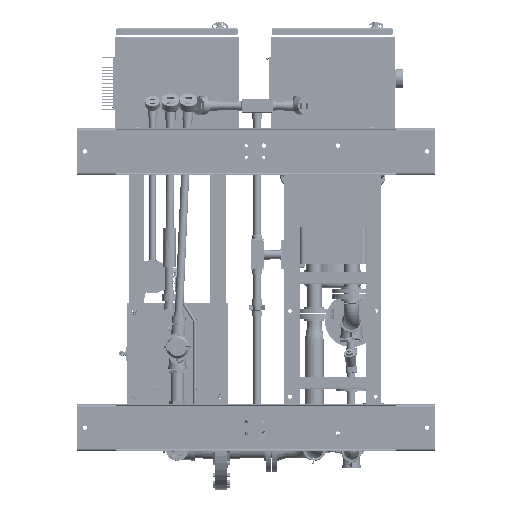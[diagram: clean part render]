
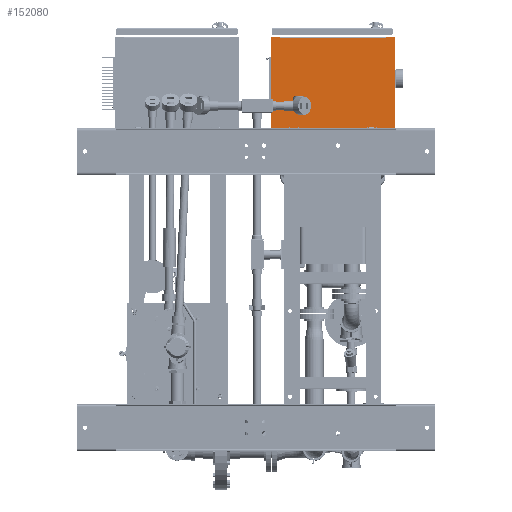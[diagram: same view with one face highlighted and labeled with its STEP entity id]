
A CAD part, front view. The second image highlights one B-rep face of the part: STEP entity #152080.
In plain terms, the highlighted planar face has unit normal (0, -1, 0).
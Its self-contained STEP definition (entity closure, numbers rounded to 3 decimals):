
#388 = DIRECTION ( 'NONE',  ( 0., 0., -1. ) ) ;
#1256 = ORIENTED_EDGE ( 'NONE', *, *, #88720, .F. ) ;
#1353 = DIRECTION ( 'NONE',  ( 0., -1., 0. ) ) ;
#3464 = VERTEX_POINT ( 'NONE', #132478 ) ;
#3819 = EDGE_CURVE ( 'NONE', #87629, #72014, #83582, .T. ) ;
#4423 = DIRECTION ( 'NONE',  ( 0., 0., -1. ) ) ;
#6152 = CARTESIAN_POINT ( 'NONE',  ( 13.202, 13.737, 40.592 ) ) ;
#8606 = VERTEX_POINT ( 'NONE', #72236 ) ;
#9051 = VECTOR ( 'NONE', #23881, 39.37 ) ;
#9408 = CARTESIAN_POINT ( 'NONE',  ( 12.143, 13.737, 28.813 ) ) ;
#11732 = DIRECTION ( 'NONE',  ( 0., 1., 0. ) ) ;
#12383 = ORIENTED_EDGE ( 'NONE', *, *, #172997, .F. ) ;
#12421 = ORIENTED_EDGE ( 'NONE', *, *, #107170, .F. ) ;
#14426 = LINE ( 'NONE', #120813, #67740 ) ;
#15016 = CARTESIAN_POINT ( 'NONE',  ( 20., 13.737, 34.75 ) ) ;
#18523 = DIRECTION ( 'NONE',  ( 0., 1., 0. ) ) ;
#18611 = ORIENTED_EDGE ( 'NONE', *, *, #54184, .F. ) ;
#20458 = DIRECTION ( 'NONE',  ( 0., 0., -1. ) ) ;
#22937 = DIRECTION ( 'NONE',  ( 1., 0., 0. ) ) ;
#23141 = VECTOR ( 'NONE', #22937, 39.37 ) ;
#23881 = DIRECTION ( 'NONE',  ( -1., 0., 0. ) ) ;
#26521 = EDGE_CURVE ( 'NONE', #156604, #8606, #51306, .T. ) ;
#26752 = LINE ( 'NONE', #157632, #9051 ) ;
#28265 = DIRECTION ( 'NONE',  ( 0., 0., -1. ) ) ;
#28552 = VECTOR ( 'NONE', #152717, 39.37 ) ;
#29883 = VECTOR ( 'NONE', #95337, 39.37 ) ;
#31838 = ORIENTED_EDGE ( 'NONE', *, *, #38719, .T. ) ;
#33492 = CIRCLE ( 'NONE', #142662, 0.08 ) ;
#35177 = VERTEX_POINT ( 'NONE', #149185 ) ;
#35555 = ORIENTED_EDGE ( 'NONE', *, *, #3819, .T. ) ;
#38719 = EDGE_CURVE ( 'NONE', #72014, #8606, #173503, .T. ) ;
#39784 = DIRECTION ( 'NONE',  ( -0.174, 0., 0.985 ) ) ;
#48622 = EDGE_CURVE ( 'NONE', #110135, #3464, #87328, .T. ) ;
#49899 = AXIS2_PLACEMENT_3D ( 'NONE', #92795, #18523, #136691 ) ;
#51306 = LINE ( 'NONE', #156691, #23141 ) ;
#54176 = VERTEX_POINT ( 'NONE', #100585 ) ;
#54184 = EDGE_CURVE ( 'NONE', #82239, #118424, #33492, .T. ) ;
#55029 = DIRECTION ( 'NONE',  ( -0.174, 0., -0.985 ) ) ;
#59749 = ORIENTED_EDGE ( 'NONE', *, *, #26521, .F. ) ;
#60617 = AXIS2_PLACEMENT_3D ( 'NONE', #15016, #1353, #388 ) ;
#61927 = VECTOR ( 'NONE', #55029, 39.37 ) ;
#62681 = LINE ( 'NONE', #153402, #104895 ) ;
#66369 = CARTESIAN_POINT ( 'NONE',  ( 27.857, 13.737, 40.631 ) ) ;
#67121 = ORIENTED_EDGE ( 'NONE', *, *, #95362, .T. ) ;
#67740 = VECTOR ( 'NONE', #121760, 39.37 ) ;
#70684 = CARTESIAN_POINT ( 'NONE',  ( 12.063, 13.737, 40.631 ) ) ;
#72014 = VERTEX_POINT ( 'NONE', #140584 ) ;
#72236 = CARTESIAN_POINT ( 'NONE',  ( 13.165, 13.737, 40.711 ) ) ;
#75199 = CARTESIAN_POINT ( 'NONE',  ( 27.937, 13.737, 28.893 ) ) ;
#75578 = PLANE ( 'NONE',  #60617 ) ;
#75708 = VERTEX_POINT ( 'NONE', #75199 ) ;
#78045 = ORIENTED_EDGE ( 'NONE', *, *, #113400, .F. ) ;
#78566 = VERTEX_POINT ( 'NONE', #70684 ) ;
#82239 = VERTEX_POINT ( 'NONE', #9408 ) ;
#82621 = DIRECTION ( 'NONE',  ( 1., 0., 0. ) ) ;
#82672 = CARTESIAN_POINT ( 'NONE',  ( 12.063, 13.737, 34.762 ) ) ;
#82722 = ORIENTED_EDGE ( 'NONE', *, *, #157878, .F. ) ;
#83569 = CARTESIAN_POINT ( 'NONE',  ( 27.857, 13.737, 28.813 ) ) ;
#83582 = LINE ( 'NONE', #143079, #29883 ) ;
#86308 = VECTOR ( 'NONE', #82621, 39.37 ) ;
#87328 = CIRCLE ( 'NONE', #159031, 0.08 ) ;
#87629 = VERTEX_POINT ( 'NONE', #6152 ) ;
#87914 = VERTEX_POINT ( 'NONE', #149488 ) ;
#88720 = EDGE_CURVE ( 'NONE', #35177, #110135, #125539, .T. ) ;
#92201 = CARTESIAN_POINT ( 'NONE',  ( 27.857, 13.737, 40.711 ) ) ;
#92795 = CARTESIAN_POINT ( 'NONE',  ( 12.143, 13.737, 40.631 ) ) ;
#93014 = VERTEX_POINT ( 'NONE', #83569 ) ;
#93229 = CARTESIAN_POINT ( 'NONE',  ( 20., 13.737, 40.592 ) ) ;
#93455 = ORIENTED_EDGE ( 'NONE', *, *, #193210, .T. ) ;
#95222 = EDGE_CURVE ( 'NONE', #75708, #93014, #174171, .T. ) ;
#95337 = DIRECTION ( 'NONE',  ( -1., 0., 0. ) ) ;
#95362 = EDGE_CURVE ( 'NONE', #54176, #87914, #26752, .T. ) ;
#97246 = CARTESIAN_POINT ( 'NONE',  ( 20., 13.737, 40.711 ) ) ;
#100585 = CARTESIAN_POINT ( 'NONE',  ( 26.814, 13.737, 40.592 ) ) ;
#102672 = ORIENTED_EDGE ( 'NONE', *, *, #95222, .F. ) ;
#104895 = VECTOR ( 'NONE', #111455, 39.37 ) ;
#107170 = EDGE_CURVE ( 'NONE', #118424, #78566, #147658, .T. ) ;
#110135 = VERTEX_POINT ( 'NONE', #92201 ) ;
#111455 = DIRECTION ( 'NONE',  ( -1., 0., 0. ) ) ;
#113400 = EDGE_CURVE ( 'NONE', #93014, #82239, #62681, .T. ) ;
#114980 = AXIS2_PLACEMENT_3D ( 'NONE', #166481, #137204, #4423 ) ;
#116853 = CARTESIAN_POINT ( 'NONE',  ( 13.186, 13.737, 40.592 ) ) ;
#117134 = CARTESIAN_POINT ( 'NONE',  ( 12.143, 13.737, 28.893 ) ) ;
#118424 = VERTEX_POINT ( 'NONE', #160855 ) ;
#120813 = CARTESIAN_POINT ( 'NONE',  ( 27.937, 13.737, 34.762 ) ) ;
#121760 = DIRECTION ( 'NONE',  ( 0., 0., -1. ) ) ;
#125539 = LINE ( 'NONE', #97246, #86308 ) ;
#132206 = FACE_OUTER_BOUND ( 'NONE', #143939, .T. ) ;
#132478 = CARTESIAN_POINT ( 'NONE',  ( 27.937, 13.737, 40.631 ) ) ;
#134061 = CIRCLE ( 'NONE', #49899, 0.08 ) ;
#136691 = DIRECTION ( 'NONE',  ( 0., 0., -1. ) ) ;
#137204 = DIRECTION ( 'NONE',  ( 0., 1., 0. ) ) ;
#139688 = VECTOR ( 'NONE', #39784, 39.37 ) ;
#140584 = CARTESIAN_POINT ( 'NONE',  ( 13.186, 13.737, 40.592 ) ) ;
#141482 = CARTESIAN_POINT ( 'NONE',  ( 12.143, 13.737, 40.711 ) ) ;
#142177 = DIRECTION ( 'NONE',  ( 0., 0., 1. ) ) ;
#142662 = AXIS2_PLACEMENT_3D ( 'NONE', #117134, #11732, #28265 ) ;
#143079 = CARTESIAN_POINT ( 'NONE',  ( 20., 13.737, 40.592 ) ) ;
#143939 = EDGE_LOOP ( 'NONE', ( #59749, #82722, #12421, #18611, #78045, #102672, #12383, #172019, #1256, #93455, #67121, #157363, #35555, #31838 ) ) ;
#146707 = CARTESIAN_POINT ( 'NONE',  ( 26.835, 13.737, 40.711 ) ) ;
#147658 = LINE ( 'NONE', #82672, #147968 ) ;
#147968 = VECTOR ( 'NONE', #142177, 39.37 ) ;
#149185 = CARTESIAN_POINT ( 'NONE',  ( 26.835, 13.737, 40.711 ) ) ;
#149488 = CARTESIAN_POINT ( 'NONE',  ( 26.798, 13.737, 40.592 ) ) ;
#152080 = ADVANCED_FACE ( 'NONE', ( #132206 ), #75578, .T. ) ;
#152717 = DIRECTION ( 'NONE',  ( -1., 0., 0. ) ) ;
#153402 = CARTESIAN_POINT ( 'NONE',  ( 20., 13.737, 28.813 ) ) ;
#156604 = VERTEX_POINT ( 'NONE', #141482 ) ;
#156691 = CARTESIAN_POINT ( 'NONE',  ( 20., 13.737, 40.711 ) ) ;
#157363 = ORIENTED_EDGE ( 'NONE', *, *, #160920, .T. ) ;
#157632 = CARTESIAN_POINT ( 'NONE',  ( 26.806, 13.737, 40.592 ) ) ;
#157878 = EDGE_CURVE ( 'NONE', #78566, #156604, #134061, .T. ) ;
#159031 = AXIS2_PLACEMENT_3D ( 'NONE', #66369, #171741, #20458 ) ;
#160855 = CARTESIAN_POINT ( 'NONE',  ( 12.063, 13.737, 28.893 ) ) ;
#160920 = EDGE_CURVE ( 'NONE', #87914, #87629, #164484, .T. ) ;
#164484 = LINE ( 'NONE', #93229, #28552 ) ;
#166481 = CARTESIAN_POINT ( 'NONE',  ( 27.857, 13.737, 28.893 ) ) ;
#171741 = DIRECTION ( 'NONE',  ( 0., 1., 0. ) ) ;
#172019 = ORIENTED_EDGE ( 'NONE', *, *, #48622, .F. ) ;
#172997 = EDGE_CURVE ( 'NONE', #3464, #75708, #14426, .T. ) ;
#173503 = LINE ( 'NONE', #116853, #139688 ) ;
#174171 = CIRCLE ( 'NONE', #114980, 0.08 ) ;
#188713 = LINE ( 'NONE', #146707, #61927 ) ;
#193210 = EDGE_CURVE ( 'NONE', #35177, #54176, #188713, .T. ) ;
